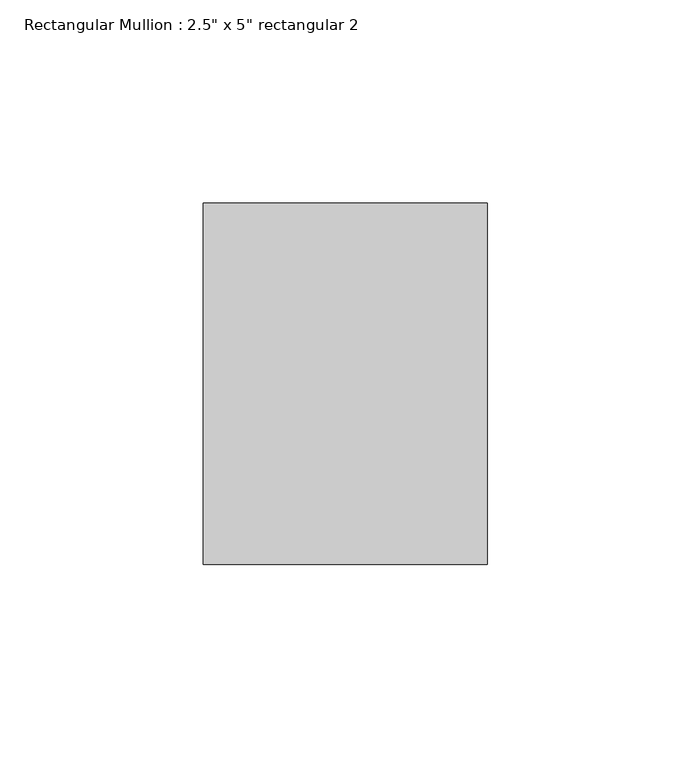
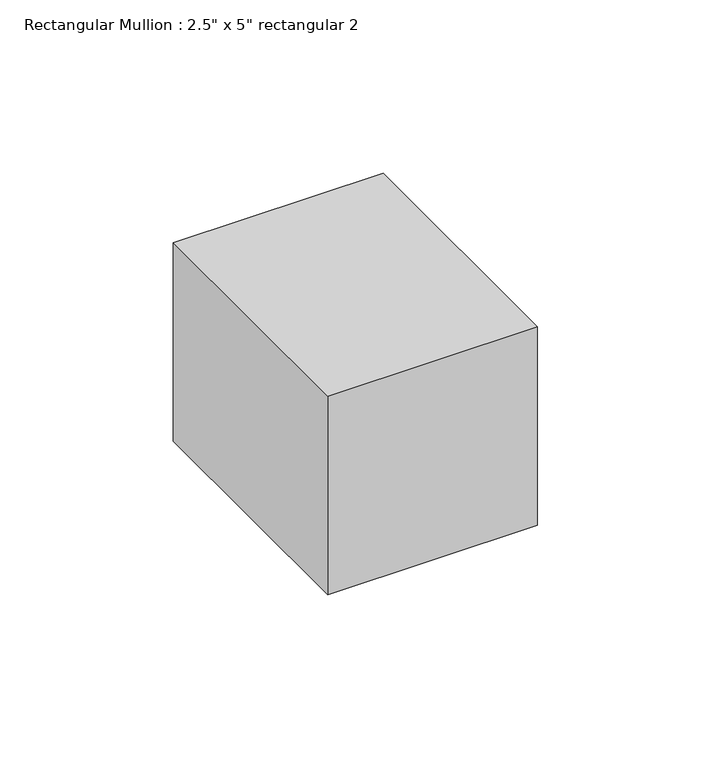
"""IFC4 building model written with IfcOpenShell, lengths in millimetres: member geometry."""

from ifc_helpers import new_model, si_unit, frame, origin, place, context, project, spatial, polyline, outline, extrude, source, transform, mapped, element, save


def member_2a764257(model_context):
    return source(origin(), model_context, "Body", "SweptSolid", [
        extrude(outline(polyline([(0.0, 44.45), (0.0, -44.45), (-69.85, -44.45), (-69.85, 44.45), (0.0, 44.45)])), frame((0.0, 0.0, -69.85), z_axis=(0.0, 0.0, 1.0), x_axis=(1.0, 0.0, 0.0)), (0.0, 0.0, 1.0), 69.85),
    ])


if __name__ == "__main__":
    model = new_model("IFC4")
    model_context = context("Model", 3, world=origin())
    ifc_project = project(units=[si_unit("LENGTHUNIT", "METRE", prefix="MILLI")], contexts=[model_context])
    site = spatial("IfcSite", under=ifc_project)
    building = spatial("IfcBuilding", under=site)
    placement = place(None, origin())
    member_shape = member_2a764257(model_context)
    element("IfcMember", 1, ObjectType="Rectangular Mullion : 2.5\" x 5\" rectangular 2", at=placement, inside=building, context=model_context, shape_type="MappedRepresentation", body=[
        mapped(member_shape, transform((0.0, 0.0, 0.0), x_axis=(1.0, 0.0, 0.0), y_axis=(0.0, 1.0, 0.0), z_axis=(0.0, 0.0, 1.0))),
    ])
    save(model, "model.ifc")
